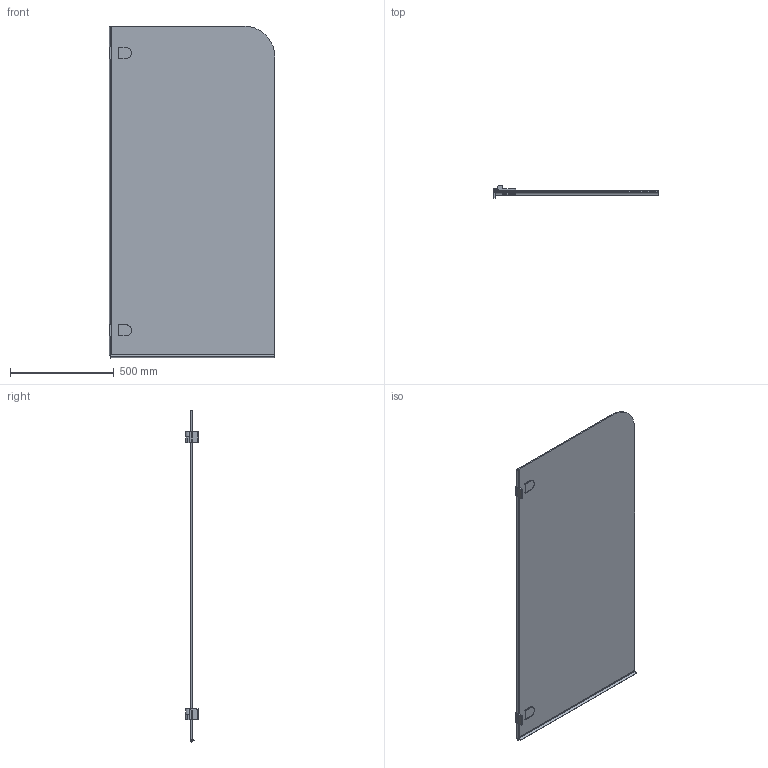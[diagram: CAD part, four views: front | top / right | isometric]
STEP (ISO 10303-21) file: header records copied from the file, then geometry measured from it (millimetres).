
FILE_DESCRIPTION(/* description */ (''),/* implementation_level */ '2;1');
FILE_NAME(/* name */ 'E:\Работа\Сергей\Душевые кабинки\! Работа\LUX PEARL GV-001\LUX PEARL GV-001 правая модель\LUX PEARL GV-001 ПРАВАЯ-3D.stp',/* time_stamp */ '2018-02-21T19:58:09+03:00',/* author */ ('PC'),/* organization */ (''),/* preprocessor_version */ 'ST-DEVELOPER v15.2',/* originating_system */ 'Autodesk Inventor 2014',/* authorisation */ '');
FILE_SCHEMA (('AUTOMOTIVE_DESIGN { 1 0 10303 214 3 1 1 }'));
Length unit declared in the file: millimetre
Products named in the file (1): LUX PEARL GV-001 ПРАВАЯ-3D
Bounding box: 801 x 58 x 1603.4 mm (x, y, z)
Volume: 7896823.6 mm3; surface area: 2695323.7 mm2
Topology: 3 solids, 5 shells, 218 faces, 595 edges, 393 vertices
Faces by surface type: plane 154, cylinder 64
Entity records: 7201 total; most frequent: CARTESIAN_POINT 1274, ORIENTED_EDGE 1202, DIRECTION 1167, EDGE_CURVE 595, LINE 443, VECTOR 443, VERTEX_POINT 393, AXIS2_PLACEMENT_3D 362
